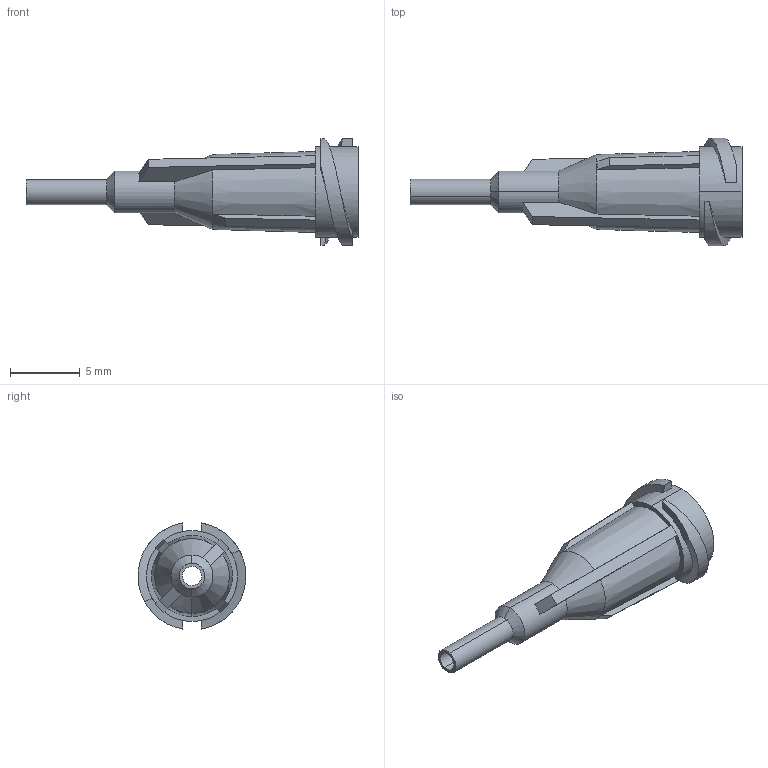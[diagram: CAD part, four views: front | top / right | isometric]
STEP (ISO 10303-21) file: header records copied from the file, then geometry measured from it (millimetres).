
FILE_DESCRIPTION (( 'STEP AP214' ), '1' );
FILE_NAME ('8001073_CUS.STEP', '2022-05-23T11:37:23', ( '' ), ( '' ), 'SwSTEP 2.0', 'SolidWorks 2020', '' );
FILE_SCHEMA (( 'AUTOMOTIVE_DESIGN' ));
Length unit declared in the file: millimetre
Products named in the file (1): 8001073_CUS
Bounding box: 23.72 x 7.7 x 7.59 mm (x, y, z)
Surface area: 619.7 mm2 (no closed solid volume)
Topology: 0 solids, 3 shells, 61 faces, 166 edges, 106 vertices
Faces by surface type: plane 35, cone 12, cylinder 8, bspline 6
Entity records: 2850 total; most frequent: CARTESIAN_POINT 696, ORIENTED_EDGE 308, DIRECTION 296, EDGE_CURVE 166, AXIS2_PLACEMENT_3D 112, VERTEX_POINT 106, VECTOR 72, LINE 72
